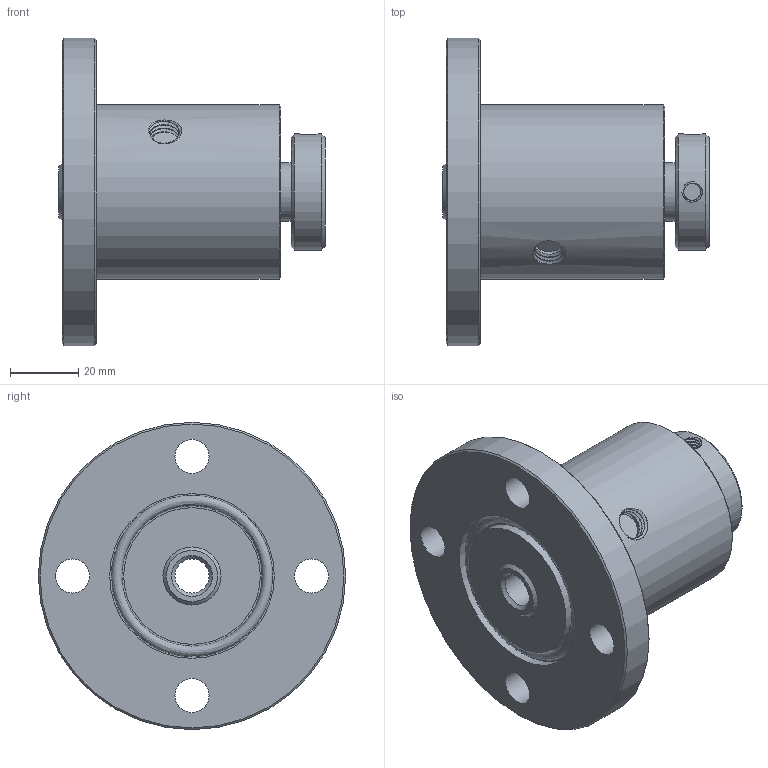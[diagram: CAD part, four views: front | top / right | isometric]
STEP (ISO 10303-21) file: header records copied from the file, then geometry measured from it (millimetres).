
FILE_DESCRIPTION(/* description */ (''),/* implementation_level */ '2;1');
FILE_NAME(/* name */ '14101更新.stp',/* time_stamp */ '2020-06-23T15:38:53+08:00',/* author */ (''),/* organization */ (''),/* preprocessor_version */ 'ST-DEVELOPER v16.7',/* originating_system */ 'SIEMENS PLM Software NX 12.0',/* authorisation */ '');
FILE_SCHEMA (('AUTOMOTIVE_DESIGN { 1 0 10303 214 3 1 1 1 }'));
Length unit declared in the file: millimetre
Products named in the file (1): 14101
Bounding box: 78 x 90 x 90 mm (x, y, z)
Volume: 172743.1 mm3; surface area: 33258.3 mm2
Topology: 2 solids, 2 shells, 68 faces, 230 edges, 180 vertices
Faces by surface type: cylinder 23, plane 20, bspline 15, cone 10
Full cylindrical faces by diameter (mm): 10 x5, 13 x1, 13.1 x1, 17 x1, 34 x1, 40 x2, 41 x1, 48.2 x1, 51 x1, 90 x1
Entity records: 14482 total; most frequent: CARTESIAN_POINT 12840, ORIENTED_EDGE 238, DIRECTION 210, B_SPLINE_CURVE_WITH_KNOTS 127, EDGE_CURVE 119, EDGE_LOOP 116, AXIS2_PLACEMENT_3D 99, VERTEX_POINT 94
